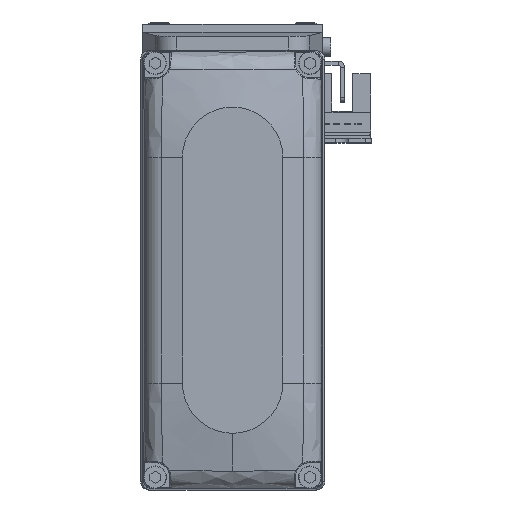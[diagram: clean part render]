
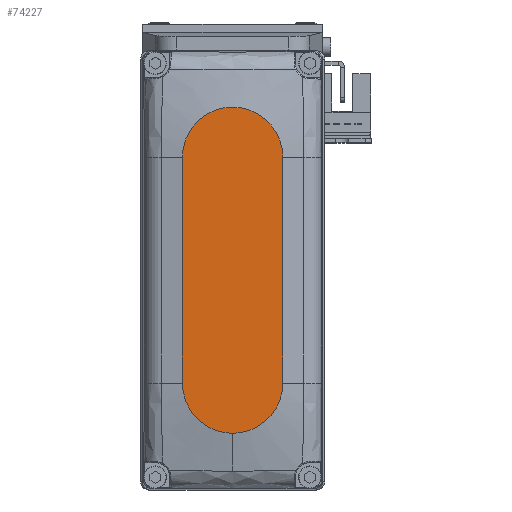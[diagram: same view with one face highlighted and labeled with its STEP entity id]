
A CAD part, top view. The second image highlights one B-rep face of the part: STEP entity #74227.
In plain terms, the highlighted planar face has unit normal (0, 0, 1).
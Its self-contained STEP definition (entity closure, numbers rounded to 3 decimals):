
#2829 = VECTOR ( 'NONE', #58405, 1000. ) ;
#3570 = VERTEX_POINT ( 'NONE', #7550 ) ;
#5629 = ORIENTED_EDGE ( 'NONE', *, *, #8325, .T. ) ;
#6009 = CARTESIAN_POINT ( 'NONE',  ( -27., 12., 25. ) ) ;
#6562 = CARTESIAN_POINT ( 'NONE',  ( -27., -12., 25. ) ) ;
#7550 = CARTESIAN_POINT ( 'NONE',  ( 27., -12., 25. ) ) ;
#8023 = DIRECTION ( 'NONE',  ( 1., 0., 0. ) ) ;
#8325 = EDGE_CURVE ( 'NONE', #61466, #12436, #11729, .T. ) ;
#10117 = CARTESIAN_POINT ( 'NONE',  ( 39., 0., 25. ) ) ;
#10587 = LINE ( 'NONE', #34529, #2829 ) ;
#10682 = DIRECTION ( 'NONE',  ( 0., 0., 1. ) ) ;
#11729 = CIRCLE ( 'NONE', #55557, 12. ) ;
#12436 = VERTEX_POINT ( 'NONE', #27981 ) ;
#15974 = LINE ( 'NONE', #39936, #40949 ) ;
#20588 = CARTESIAN_POINT ( 'NONE',  ( 27., 0., 25. ) ) ;
#21867 = DIRECTION ( 'NONE',  ( 0., 0., 1. ) ) ;
#23253 = ORIENTED_EDGE ( 'NONE', *, *, #58127, .T. ) ;
#23902 = CIRCLE ( 'NONE', #67783, 12. ) ;
#25184 = EDGE_CURVE ( 'NONE', #3570, #61466, #23902, .T. ) ;
#27755 = FACE_OUTER_BOUND ( 'NONE', #67935, .T. ) ;
#27981 = CARTESIAN_POINT ( 'NONE',  ( 27., 12., 25. ) ) ;
#28552 = ORIENTED_EDGE ( 'NONE', *, *, #25184, .T. ) ;
#30582 = ORIENTED_EDGE ( 'NONE', *, *, #33588, .T. ) ;
#33588 = EDGE_CURVE ( 'NONE', #51788, #42160, #71318, .T. ) ;
#34529 = CARTESIAN_POINT ( 'NONE',  ( -27., 12., 25. ) ) ;
#34627 = DIRECTION ( 'NONE',  ( 1., 0., 0. ) ) ;
#36169 = AXIS2_PLACEMENT_3D ( 'NONE', #75624, #21867, #45810 ) ;
#37522 = AXIS2_PLACEMENT_3D ( 'NONE', #64429, #10682, #34627 ) ;
#37842 = CARTESIAN_POINT ( 'NONE',  ( 27., 0., 25. ) ) ;
#39936 = CARTESIAN_POINT ( 'NONE',  ( -27., -12., 25. ) ) ;
#40927 = ORIENTED_EDGE ( 'NONE', *, *, #61457, .T. ) ;
#40949 = VECTOR ( 'NONE', #63849, 1000. ) ;
#42160 = VERTEX_POINT ( 'NONE', #6562 ) ;
#44517 = DIRECTION ( 'NONE',  ( 0., 0., 1. ) ) ;
#45810 = DIRECTION ( 'NONE',  ( 1., 0., 0. ) ) ;
#51683 = PLANE ( 'NONE',  #36169 ) ;
#51788 = VERTEX_POINT ( 'NONE', #6009 ) ;
#55557 = AXIS2_PLACEMENT_3D ( 'NONE', #37842, #61754, #8023 ) ;
#58127 = EDGE_CURVE ( 'NONE', #12436, #51788, #10587, .T. ) ;
#58405 = DIRECTION ( 'NONE',  ( -1., 0., 0. ) ) ;
#61457 = EDGE_CURVE ( 'NONE', #42160, #3570, #15974, .T. ) ;
#61466 = VERTEX_POINT ( 'NONE', #10117 ) ;
#61754 = DIRECTION ( 'NONE',  ( 0., 0., 1. ) ) ;
#63849 = DIRECTION ( 'NONE',  ( 1., 0., 0. ) ) ;
#64429 = CARTESIAN_POINT ( 'NONE',  ( -27., 0., 25. ) ) ;
#67783 = AXIS2_PLACEMENT_3D ( 'NONE', #20588, #44517, #68435 ) ;
#67935 = EDGE_LOOP ( 'NONE', ( #23253, #30582, #40927, #28552, #5629 ) ) ;
#68435 = DIRECTION ( 'NONE',  ( 1., 0., 0. ) ) ;
#71318 = CIRCLE ( 'NONE', #37522, 12. ) ;
#74227 = ADVANCED_FACE ( 'NONE', ( #27755 ), #51683, .T. ) ;
#75624 = CARTESIAN_POINT ( 'NONE',  ( 0., 0., 25. ) ) ;
